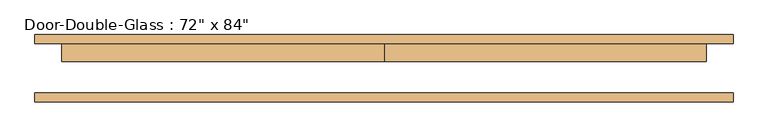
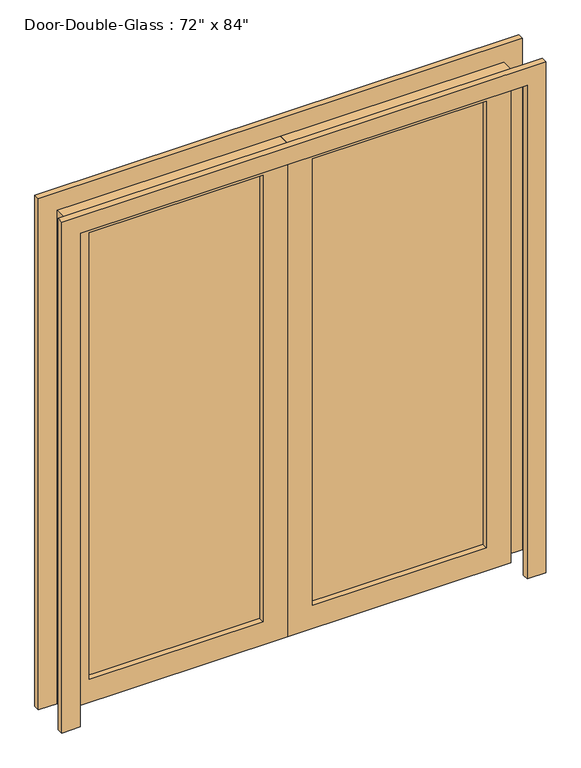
"""IFC4 building model written with IfcOpenShell, lengths in millimetres: door geometry."""

from ifc_helpers import new_model, si_unit, frame, origin, place, context, project, spatial, polyline, outline, extrude, source, transform, mapped, element, save


def door_3f2f997e(model_context):
    return source(origin(), model_context, "Body", "SweptSolid", [
        extrude(outline(polyline([(2133.6, -914.4), (0.0, -914.4), (0.0, 0.0), (2133.6, 0.0), (2133.6, -914.4)]), holes=[polyline([(2032.0, -812.8), (2032.0, -101.6), (101.6, -101.6), (101.6, -812.8), (2032.0, -812.8)])]), frame((0.0, 21.43125, 0.0), z_axis=(0.0, 1.0, 0.0), x_axis=(0.0, 0.0, 1.0)), (0.0, 0.0, 1.0), 50.8),
        extrude(outline(polyline([(2133.6, 914.4), (2133.6, 0.0), (0.0, 0.0), (0.0, 914.4), (2133.6, 914.4)]), holes=[polyline([(2032.0, 812.8), (101.6, 812.8), (101.6, 101.6), (2032.0, 101.6), (2032.0, 812.8)])]), frame((0.0, 21.43125, 0.0), z_axis=(0.0, 1.0, 0.0), x_axis=(0.0, 0.0, 1.0)), (0.0, 0.0, 1.0), 50.8),
        extrude(outline(polyline([(101.6, 50.00625), (812.8, 50.00625), (812.8, 43.65625), (101.6, 43.65625), (101.6, 50.00625)])), frame((0.0, 0.0, 101.6), z_axis=(0.0, 0.0, 1.0), x_axis=(1.0, 0.0, 0.0)), (0.0, 0.0, 1.0), 1930.4),
        extrude(outline(polyline([(-812.8, 50.00625), (-101.6, 50.00625), (-101.6, 43.65625), (-812.8, 43.65625), (-812.8, 50.00625)])), frame((0.0, 0.0, 101.6), z_axis=(0.0, 0.0, 1.0), x_axis=(1.0, 0.0, 0.0)), (0.0, 0.0, 1.0), 1930.4),
        extrude(outline(polyline([(0.0, 990.6), (2209.8, 990.6), (2209.8, -990.6), (0.0, -990.6), (0.0, -914.4), (2133.6, -914.4), (2133.6, 914.4), (0.0, 914.4), (0.0, 990.6)])), frame((0.0, 72.23125, 0.0), z_axis=(0.0, 1.0, 0.0), x_axis=(0.0, 0.0, 1.0)), (0.0, 0.0, 1.0), 25.4),
        extrude(outline(polyline([(0.0, 990.6), (2209.8, 990.6), (2209.8, -990.6), (0.0, -990.6), (0.0, -914.4), (2133.6, -914.4), (2133.6, 914.4), (0.0, 914.4), (0.0, 990.6)])), frame((0.0, -92.86875, 0.0), z_axis=(0.0, 1.0, 0.0), x_axis=(0.0, 0.0, 1.0)), (0.0, 0.0, 1.0), 25.4),
    ])


if __name__ == "__main__":
    model = new_model("IFC4")
    model_context = context("Model", 3, world=origin())
    ifc_project = project(units=[si_unit("LENGTHUNIT", "METRE", prefix="MILLI")], contexts=[model_context])
    site = spatial("IfcSite", under=ifc_project)
    building = spatial("IfcBuilding", under=site)
    placement = place(None, origin())
    door_shape = door_3f2f997e(model_context)
    element("IfcDoor", 1, ObjectType="Door-Double-Glass : 72\" x 84\"", at=placement, inside=building, context=model_context, shape_type="MappedRepresentation", body=[
        mapped(door_shape, transform((0.0, 0.0, 0.0), x_axis=(1.0, 0.0, 0.0), y_axis=(0.0, 1.0, 0.0), z_axis=(0.0, 0.0, 1.0))),
    ])
    save(model, "model.ifc")
